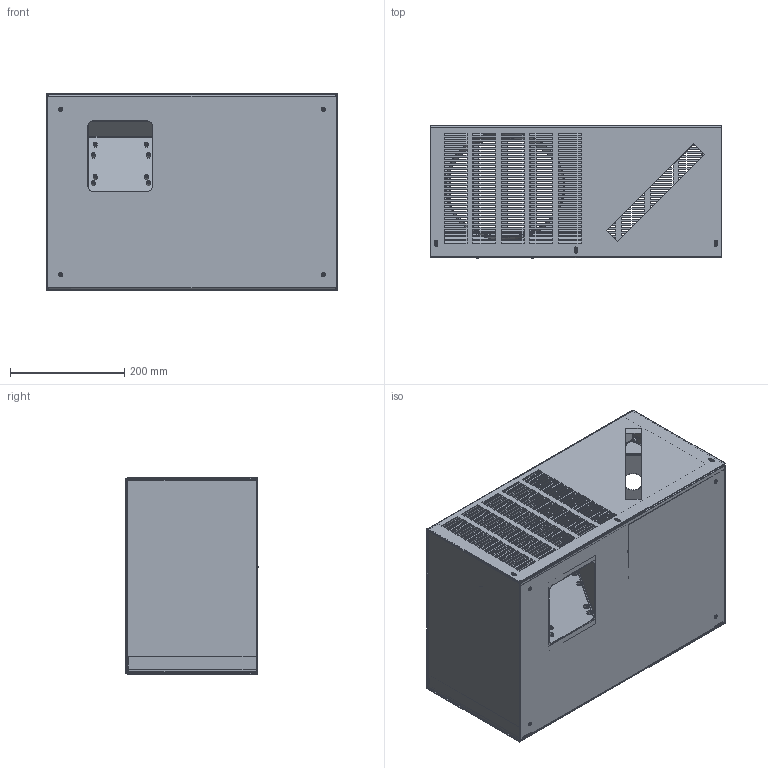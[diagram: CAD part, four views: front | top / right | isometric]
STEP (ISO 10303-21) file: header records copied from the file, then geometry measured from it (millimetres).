
FILE_DESCRIPTION (( 'STEP AP214' ), '1' );
FILE_NAME ('Figurino AWEX 7.5.STEP', '2015-10-08T07:17:58', ( '' ), ( '' ), 'SwSTEP 2.0', 'SolidWorks 2013', '' );
FILE_SCHEMA (( 'AUTOMOTIVE_DESIGN' ));
Length unit declared in the file: millimetre
Products named in the file (11): VR-AW-00014_000_Part3; VR-AW-00014_002_Part2; VR-AW-00014_000_Part7; VR-AW-00014_000_Part6; VR-AW-00014_002_Part1_Default<A macchina>; Figurino AWEX 7.5; AECB0213C; VR-AW-00016_000; VR-AW-00014_002; VR-AW-00014_002_Part5; VR-AW-00014_000_Part4
Assembly tree (10 placements, depth 3):
  Figurino AWEX 7.5
    VR-AW-00014_002
      VR-AW-00014_002_Part1_Default<A macchina>
      VR-AW-00014_000_Part6
      VR-AW-00014_000_Part7
      VR-AW-00014_002_Part2
      VR-AW-00014_000_Part3
      VR-AW-00014_000_Part4
      VR-AW-00014_002_Part5
    VR-AW-00016_000
    AECB0213C
Bounding box: 510 x 232.02 x 343.5 mm (x, y, z)
Volume: 1065610.5 mm3; surface area: 1835320 mm2
Topology: 35 solids, 35 shells, 2442 faces, 6714 edges, 4356 vertices
Faces by surface type: plane 2014, cylinder 306, cone 80, torus 28, bspline 14
Entity records: 80244 total; most frequent: CARTESIAN_POINT 15048, ORIENTED_EDGE 13428, DIRECTION 12198, EDGE_CURVE 6714, VECTOR 5946, LINE 5946, VERTEX_POINT 4356, EDGE_LOOP 3404
